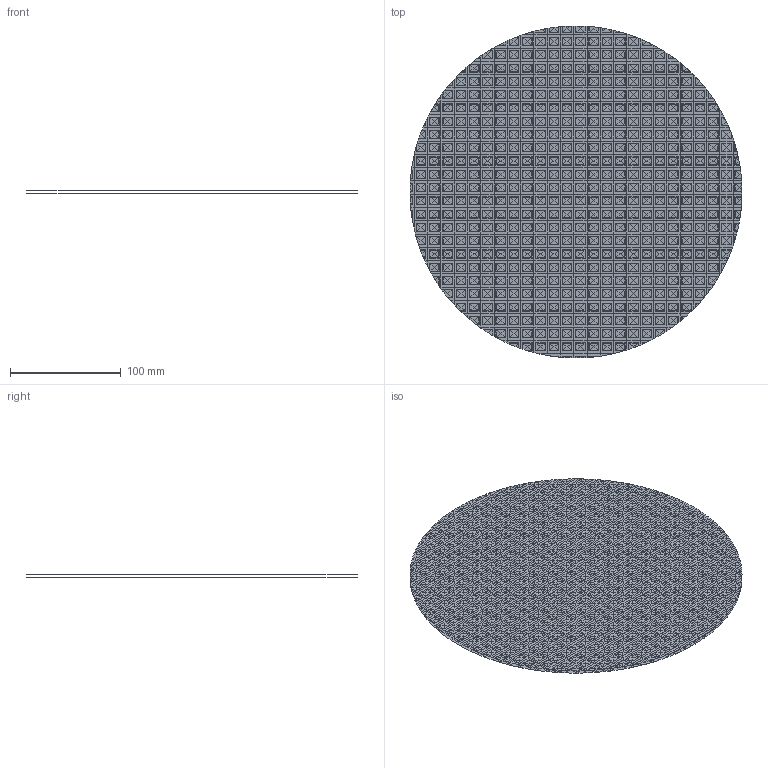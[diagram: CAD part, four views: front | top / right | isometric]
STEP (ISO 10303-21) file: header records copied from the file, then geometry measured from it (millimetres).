
FILE_DESCRIPTION(('ANSA STEP Exchange Structure File'),'2;1');
FILE_NAME('/gpfs/home/T0261920/projets/2025/FSS_isae/FSS.step','2025-06-17T09:18',('t0261920'),('none'),'ANSA 24.1.1','ANSA 24.1.1 AP214','none');
FILE_SCHEMA(('AUTOMOTIVE_DESIGN { 1 0 10303 214 1 1 1 1 }'));
Length unit declared in the file: millimetre
Products named in the file (5): _@1; coords_autogenerated_part; _; parallel_raff_AD104.unv; 1 Default PSHELL Property
Assembly tree (4 placements, depth 4):
  _@1
    coords_autogenerated_part
    _
      parallel_raff_AD104.unv
        1 Default PSHELL Property
Bounding box: 300 x 300 x 2.8 mm (x, y, z)
Surface area: 136242.6 mm2 (no closed solid volume)
Topology: 0 solids, 1041 shells, 5143 faces, 14742 edges, 10639 vertices
Faces by surface type: bspline 5138, plane 5
Entity records: 417017 total; most frequent: CARTESIAN_POINT 322106, ORIENTED_EDGE 20807, B_SPLINE_CURVE_WITH_KNOTS 14742, EDGE_CURVE 14742, VERTEX_POINT 10640, EDGE_LOOP 6063, FACE_OUTER_BOUND 5143, ADVANCED_FACE 5143
